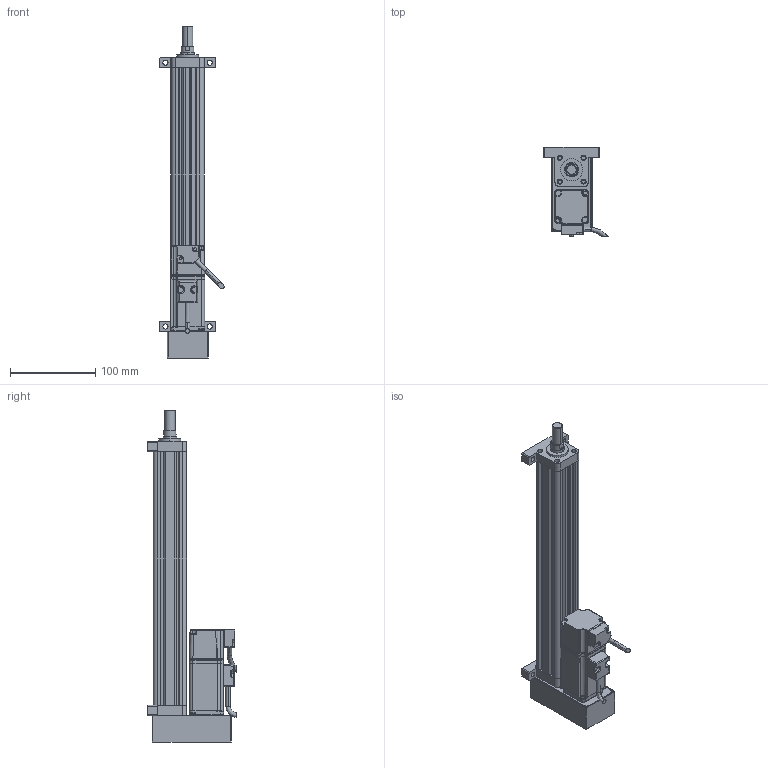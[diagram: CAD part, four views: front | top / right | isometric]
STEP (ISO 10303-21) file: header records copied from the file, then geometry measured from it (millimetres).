
FILE_DESCRIPTION (( 'STEP AP214' ), '1' );
FILE_NAME ('039-S250-D02-B-M2-C1-2.STEP', '2021-02-25T08:47:49', ( '' ), ( '' ), 'SwSTEP 2.0', 'SolidWorks 2018', '' );
FILE_SCHEMA (( 'AUTOMOTIVE_DESIGN' ));
Length unit declared in the file: millimetre
Products named in the file (8): CMC039-HDB; CMC039-XT; CMC039-QDB; CMC039-DT; ECMA-CX0401ES-40框號系列機種-100W低慣量系列; CMC039-GT; CMC039-LJB; 039-S250-D02-B-M2-C1-2
Assembly tree (7 placements, depth 2):
  039-S250-D02-B-M2-C1-2
    CMC039-GT
    CMC039-LJB
    CMC039-XT
    CMC039-DT
    ECMA-CX0401ES-40框號系列機種-100W低慣量系列
    CMC039-QDB
    CMC039-HDB
Bounding box: 75.34 x 104.89 x 390 mm (x, y, z)
Volume: 519252.9 mm3; surface area: 182043.9 mm2
Topology: 7 solids, 15 shells, 637 faces, 1658 edges, 1033 vertices
Faces by surface type: cylinder 260, plane 254, bspline 84, cone 39
Entity records: 25542 total; most frequent: CARTESIAN_POINT 10820, ORIENTED_EDGE 3250, DIRECTION 2583, EDGE_CURVE 1625, VERTEX_POINT 1033, AXIS2_PLACEMENT_3D 883, LINE 817, VECTOR 817
